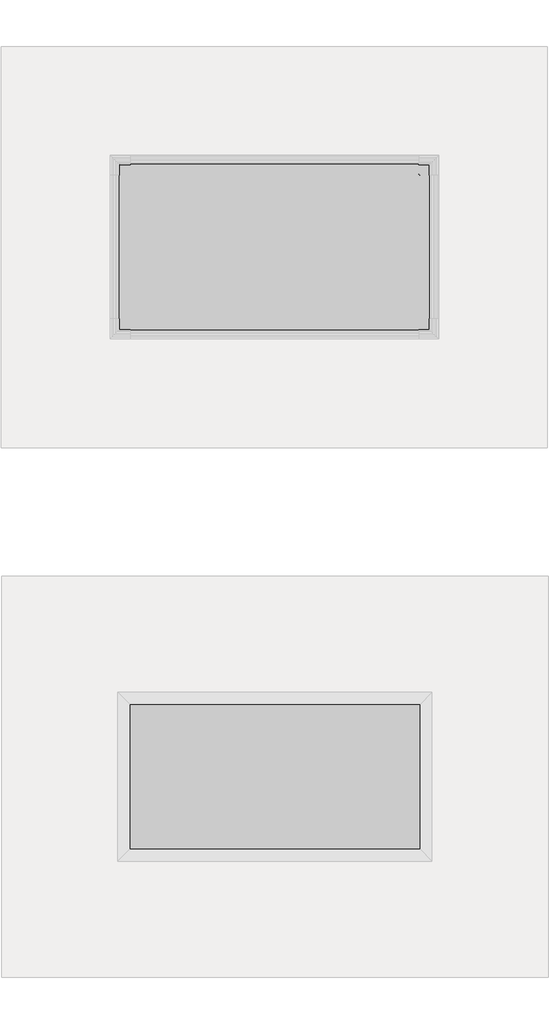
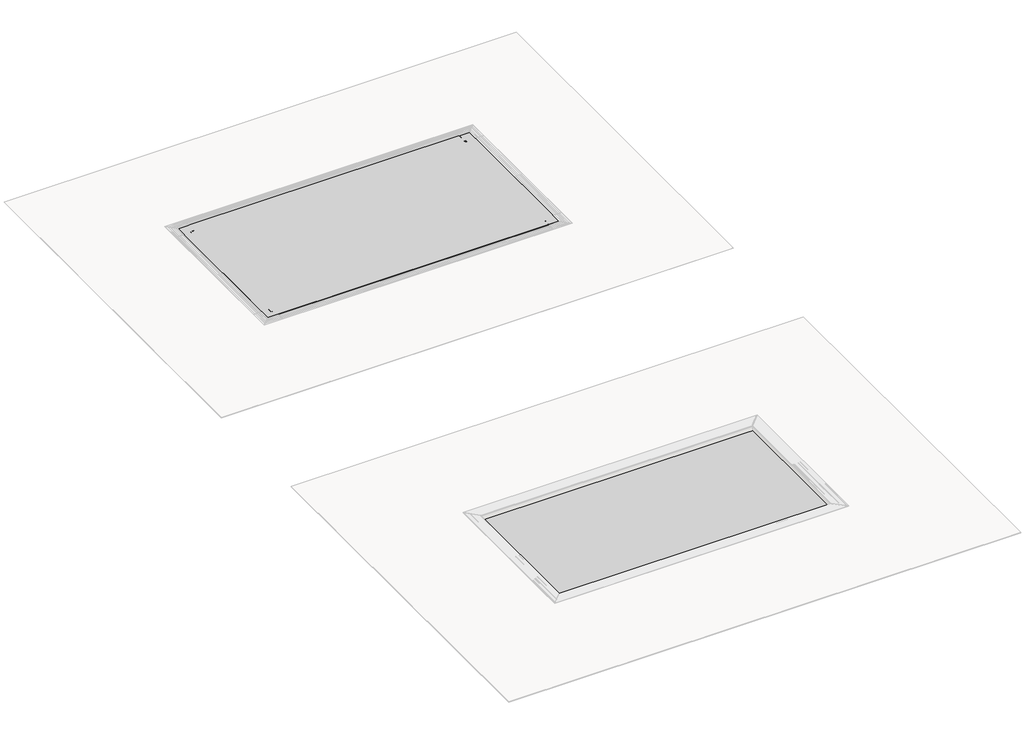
# One storey, part 8 of 8: 2 proxies.
"""IFC4 building model written with IfcOpenShell, lengths in millimetres."""

from ifc_helpers import new_model, si_unit, origin, place, context, project, spatial, transform, mapped, element, save
from components import agua_piscina_5_agua_piscina_5_e3b453ef, agua_piscina_8_agua_piscina_5_5a101cc1

model = new_model("IFC4")

# Units and contexts
model_context = context("Model", 3, world=origin())
ifc_project = project(units=[si_unit("LENGTHUNIT", "METRE", prefix="MILLI")], contexts=[model_context])

# Site, building, storey
site = spatial("IfcSite", under=ifc_project)
building = spatial("IfcBuilding", under=site)
storey = spatial("IfcBuildingStorey", under=building, Name="EXAGRES_ROCA POLAR Series_Pool_Examples", Elevation=14000.0)

# Proxies
placement = place(None, origin())
agua_piscina_5_agua_piscina_5_shape = agua_piscina_5_agua_piscina_5_e3b453ef(model_context)
element("IfcBuildingElementProxy", 1, Name="Agua Piscina_5 : Agua Piscina_5", ObjectType="Agua Piscina_5 : Agua Piscina_5", at=placement, inside=storey, context=model_context, shape_type="MappedRepresentation", body=[
    mapped(agua_piscina_5_agua_piscina_5_shape, transform((1256.3818813, 35978.0697727, 0.0), x_axis=(1.0, 0.0, 0.0), y_axis=(0.0, 1.0, 0.0), z_axis=(0.0, 0.0, 1.0))),
])
agua_piscina_8_agua_piscina_5_shape = agua_piscina_8_agua_piscina_5_5a101cc1(model_context)
element("IfcBuildingElementProxy", 2, Name="Agua Piscina_8 : Agua Piscina_5", ObjectType="Agua Piscina_8 : Agua Piscina_5", at=placement, inside=storey, context=model_context, shape_type="MappedRepresentation", body=[
    mapped(agua_piscina_8_agua_piscina_5_shape, transform((1256.3818813, 35978.0697727, 0.0), x_axis=(1.0, 0.0, 0.0), y_axis=(0.0, 1.0, 0.0), z_axis=(0.0, 0.0, 1.0))),
])

save(model, "model.ifc")
